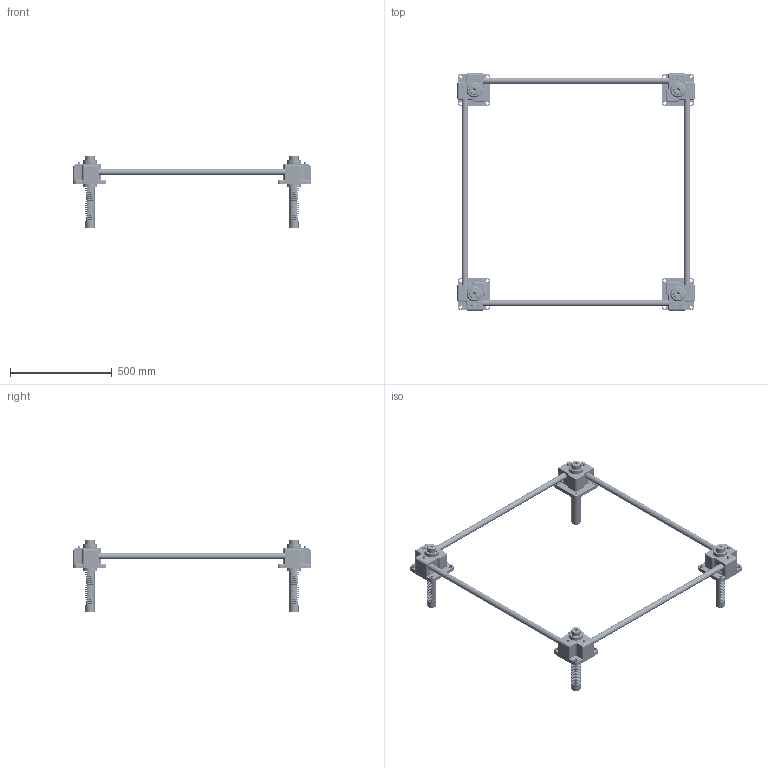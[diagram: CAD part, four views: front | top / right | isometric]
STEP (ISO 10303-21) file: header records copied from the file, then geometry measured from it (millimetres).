
FILE_DESCRIPTION(('STEP AP203'),'1');
FILE_NAME('SP5000-1000x1000-200ST.stp','2016-08-05T05:02:52',(' '),(' '),'Spatial InterOp 3D',' ',' ');
FILE_SCHEMA(('CONFIG_CONTROL_DESIGN'));
Length unit declared in the file: millimetre
Products named in the file (70): SP5000-1000x1000-200ST; Rack Gear(SP-5000); Body.1-Part; Nipple; b6206zz; Du Bush; SnapRing-61Pie; SnapRing-65Pie; Gear Box.1(NSP-5000); RJ05-4SCJ-610X600-100ST_CAP; LABEL-B.1; ___; 파트18; __; Body.2-Part; Gear Box.2(NSP-5000); Body.3-Part; Gear Box.3(NSP-5000); Body.4-Part; Gear Box.4(NSP-5000); 파트1
Assembly tree (74 placements, depth 6):
  SP5000-1000x1000-200ST
    Rack Gear(SP-5000)  x4
    Body.1-Part
      Nipple
      Nipple
      b6206zz
      b6206zz
      Du Bush
      Du Bush
      SnapRing-61Pie
      SnapRing-61Pie
      SnapRing-65Pie
      SnapRing-65Pie
      Gear Box.1(NSP-5000)
      __
        ___
          RJ05-4SCJ-610X600-100ST_CAP
            LABEL-B.1
          파트18
    Body.2-Part
      Nipple
      Nipple
      b6206zz
      b6206zz
      Du Bush
      Du Bush
      SnapRing-61Pie
      SnapRing-61Pie
      SnapRing-65Pie
      SnapRing-65Pie
      Gear Box.2(NSP-5000)
      __
        ___
          RJ05-4SCJ-610X600-100ST_CAP
            LABEL-B.1
          파트18
    Body.3-Part
      Nipple
      Nipple
      b6206zz
      b6206zz
      Du Bush
      SnapRing-61Pie
      SnapRing-65Pie
      SnapRing-65Pie
      Gear Box.3(NSP-5000)
      __
        ___
          RJ05-4SCJ-610X600-100ST_CAP
            LABEL-B.1
          파트18
    Body.4-Part
      Nipple
      Nipple
      b6206zz
      b6206zz
      Du Bush
      Du Bush
      SnapRing-61Pie
      SnapRing-61Pie
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Bounding box: 1164.44 x 1164.44 x 355 mm (x, y, z)
Volume: 8876171.8 mm3; surface area: 1592512 mm2
Topology: 78 solids, 78 shells, 9134 faces, 25371 edges, 16373 vertices
Faces by surface type: plane 7492, cylinder 994, sphere 248, torus 200, cone 144, bspline 40, revolution 16
Full cylindrical faces by diameter (mm): 3.42 x14, 3.642 x16, 5.6 x8, 8 x8, 9.886 x8, 14 x16, 16 x4, 24 x8, 25 x16, 30 x12, 34 x8, 39.2 x16, 45 x11, 50 x4, 54.4 x16, 55 x15, 58 x8, 60 x8, 61 x8, 62 x16, 62.4 x8, 65 x8, 70 x8
Entity records: 278346 total; most frequent: CARTESIAN_POINT 57349, ORIENTED_EDGE 46336, DIRECTION 42334, EDGE_CURVE 23168, LINE 20098, VECTOR 20098, VERTEX_POINT 15283, AXIS2_PLACEMENT_3D 11110
